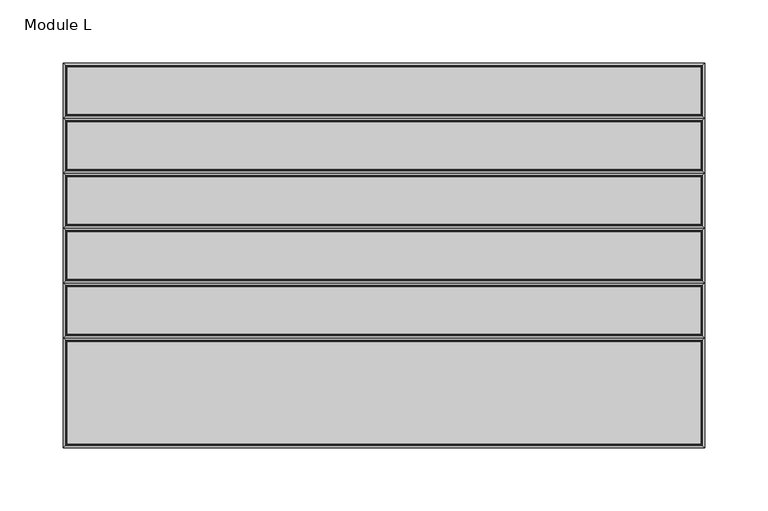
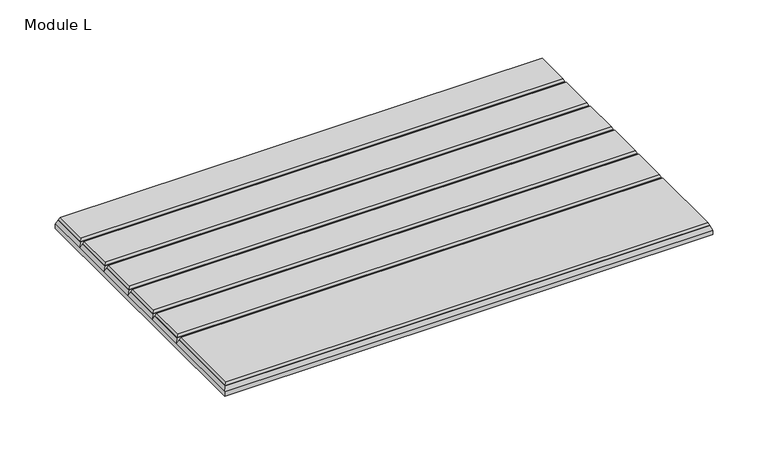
"""IFC4 building model written with IfcOpenShell, lengths in millimetres: proxy geometry, FilzFelt_Gap : Module L."""

from ifc_helpers import new_model, si_unit, origin, place, context, project, spatial, faceted_brep, source, transform, mapped, element, save


def module_l_b7052bb7(model_context):
    return source(origin(), model_context, "Body", "Brep", [
        faceted_brep([(-252.095, -150.495, 9.525), (252.095, -150.495, 9.525), (252.095, -67.2192857, 9.525), (-252.095, -67.2192857, 9.525), (252.095, 150.495, 9.525), (-252.095, 150.495, 9.525), (-252.095, 110.7621429, 9.525), (252.095, 110.7621429, 9.525), (252.095, 67.2192857, 9.525), (252.095, 106.9521429, 9.525), (-252.095, 106.9521429, 9.525), (-252.095, 67.2192857, 9.525), (252.095, 23.6764286, 9.525), (252.095, 63.4092857, 9.525), (-252.095, 63.4092857, 9.525), (-252.095, 23.6764286, 9.525), (252.095, -19.8664286, 9.525), (252.095, 19.8664286, 9.525), (-252.095, 19.8664286, 9.525), (-252.095, -19.8664286, 9.525), (252.095, -63.4092857, 9.525), (252.095, -23.6764286, 9.525), (-252.095, -23.6764286, 9.525), (-252.095, -63.4092857, 9.525), (254.0, 152.4, 0.0), (254.0, -152.4, 0.0), (-254.0, -152.4, 0.0), (-254.0, 152.4, 0.0), (-254.0, 152.4, 4.7625), (254.0, 152.4, 4.7625), (-254.0, -152.4, 4.7625), (-254.0, -65.3142857, 4.7625), (-254.0, -21.7714286, 4.7625), (-254.0, 21.7714286, 4.7625), (-254.0, 65.3142857, 4.7625), (-254.0, 108.8571429, 4.7625), (254.0, -152.4, 4.7625), (254.0, 108.8571429, 4.7625), (254.0, 65.3142857, 4.7625), (254.0, 21.7714286, 4.7625), (254.0, -21.7714286, 4.7625), (254.0, -65.3142857, 4.7625)], [[[0, 1, 2, 3]], [[4, 5, 6, 7]], [[8, 9, 10, 11]], [[12, 13, 14, 15]], [[16, 17, 18, 19]], [[20, 21, 22, 23]], [[24, 25, 26, 27]], [[24, 27, 28, 29]], [[27, 26, 30, 31, 32, 33, 34, 35, 28]], [[26, 25, 36, 30]], [[25, 24, 29, 37, 38, 39, 40, 41, 36]], [[9, 8, 38, 37]], [[13, 12, 39, 38]], [[17, 16, 40, 39]], [[21, 20, 41, 40]], [[1, 36, 41, 2]], [[29, 4, 7, 37]], [[36, 1, 0, 30]], [[11, 10, 35, 34]], [[15, 14, 34, 33]], [[19, 18, 33, 32]], [[23, 22, 32, 31]], [[30, 0, 3, 31]], [[5, 28, 35, 6]], [[28, 5, 4, 29]], [[35, 37, 7, 6]], [[37, 35, 10, 9]], [[34, 38, 8, 11]], [[38, 34, 14, 13]], [[33, 39, 12, 15]], [[39, 33, 18, 17]], [[32, 40, 16, 19]], [[40, 32, 22, 21]], [[31, 41, 20, 23]], [[41, 31, 3, 2]]]),
        faceted_brep([(252.095, -150.495, 9.525), (-252.095, -150.495, 9.525), (-252.095, -67.2192857, 9.525), (252.095, -67.2192857, 9.525), (-250.825, -149.225, 12.7), (250.825, -149.225, 12.7), (250.825, -68.4892857, 12.7), (-250.825, -68.4892857, 12.7)], [[[0, 1, 2, 3]], [[4, 5, 6, 7]], [[5, 0, 3, 6]], [[0, 5, 4, 1]], [[1, 4, 7, 2]], [[3, 2, 7, 6]]]),
        faceted_brep([(-252.095, 150.495, 9.525), (252.095, 150.495, 9.525), (252.095, 110.7621429, 9.525), (-252.095, 110.7621429, 9.525), (250.825, 149.225, 12.7), (-250.825, 149.225, 12.7), (-250.825, 112.0321429, 12.7), (250.825, 112.0321429, 12.7)], [[[0, 1, 2, 3]], [[4, 5, 6, 7]], [[1, 4, 7, 2]], [[5, 0, 3, 6]], [[0, 5, 4, 1]], [[3, 2, 7, 6]]]),
        faceted_brep([(252.095, 106.9521429, 9.525), (252.095, 67.2192857, 9.525), (-252.095, 67.2192857, 9.525), (-252.095, 106.9521429, 9.525), (250.825, 68.4892857, 12.7), (250.825, 105.6821429, 12.7), (-250.825, 105.6821429, 12.7), (-250.825, 68.4892857, 12.7)], [[[0, 1, 2, 3]], [[4, 5, 6, 7]], [[1, 0, 5, 4]], [[3, 2, 7, 6]], [[0, 3, 6, 5]], [[2, 1, 4, 7]]]),
        faceted_brep([(252.095, 63.4092857, 9.525), (252.095, 23.6764286, 9.525), (-252.095, 23.6764286, 9.525), (-252.095, 63.4092857, 9.525), (250.825, 24.9464286, 12.7), (250.825, 62.1392857, 12.7), (-250.825, 62.1392857, 12.7), (-250.825, 24.9464286, 12.7)], [[[0, 1, 2, 3]], [[4, 5, 6, 7]], [[1, 0, 5, 4]], [[3, 2, 7, 6]], [[0, 3, 6, 5]], [[2, 1, 4, 7]]]),
        faceted_brep([(252.095, 19.8664286, 9.525), (252.095, -19.8664286, 9.525), (-252.095, -19.8664286, 9.525), (-252.095, 19.8664286, 9.525), (250.825, -18.5964286, 12.7), (250.825, 18.5964286, 12.7), (-250.825, 18.5964286, 12.7), (-250.825, -18.5964286, 12.7)], [[[0, 1, 2, 3]], [[4, 5, 6, 7]], [[1, 0, 5, 4]], [[3, 2, 7, 6]], [[0, 3, 6, 5]], [[2, 1, 4, 7]]]),
        faceted_brep([(252.095, -23.6764286, 9.525), (252.095, -63.4092857, 9.525), (-252.095, -63.4092857, 9.525), (-252.095, -23.6764286, 9.525), (250.825, -62.1392857, 12.7), (250.825, -24.9464286, 12.7), (-250.825, -24.9464286, 12.7), (-250.825, -62.1392857, 12.7)], [[[0, 1, 2, 3]], [[4, 5, 6, 7]], [[1, 0, 5, 4]], [[3, 2, 7, 6]], [[0, 3, 6, 5]], [[2, 1, 4, 7]]]),
    ])


if __name__ == "__main__":
    model = new_model("IFC4")
    model_context = context("Model", 3, world=origin())
    ifc_project = project(units=[si_unit("LENGTHUNIT", "METRE", prefix="MILLI")], contexts=[model_context])
    site = spatial("IfcSite", under=ifc_project)
    building = spatial("IfcBuilding", under=site)
    placement = place(None, origin())
    module_l_shape = module_l_b7052bb7(model_context)
    element("IfcBuildingElementProxy", 1, Name="FilzFelt_Gap : Module L", ObjectType="FilzFelt_Gap : Module L", at=placement, inside=building, context=model_context, shape_type="MappedRepresentation", body=[
        mapped(module_l_shape, transform((0.0, 0.0, 0.0), x_axis=(1.0, 0.0, 0.0), y_axis=(0.0, 1.0, 0.0), z_axis=(0.0, 0.0, 1.0))),
    ])
    save(model, "model.ifc")
